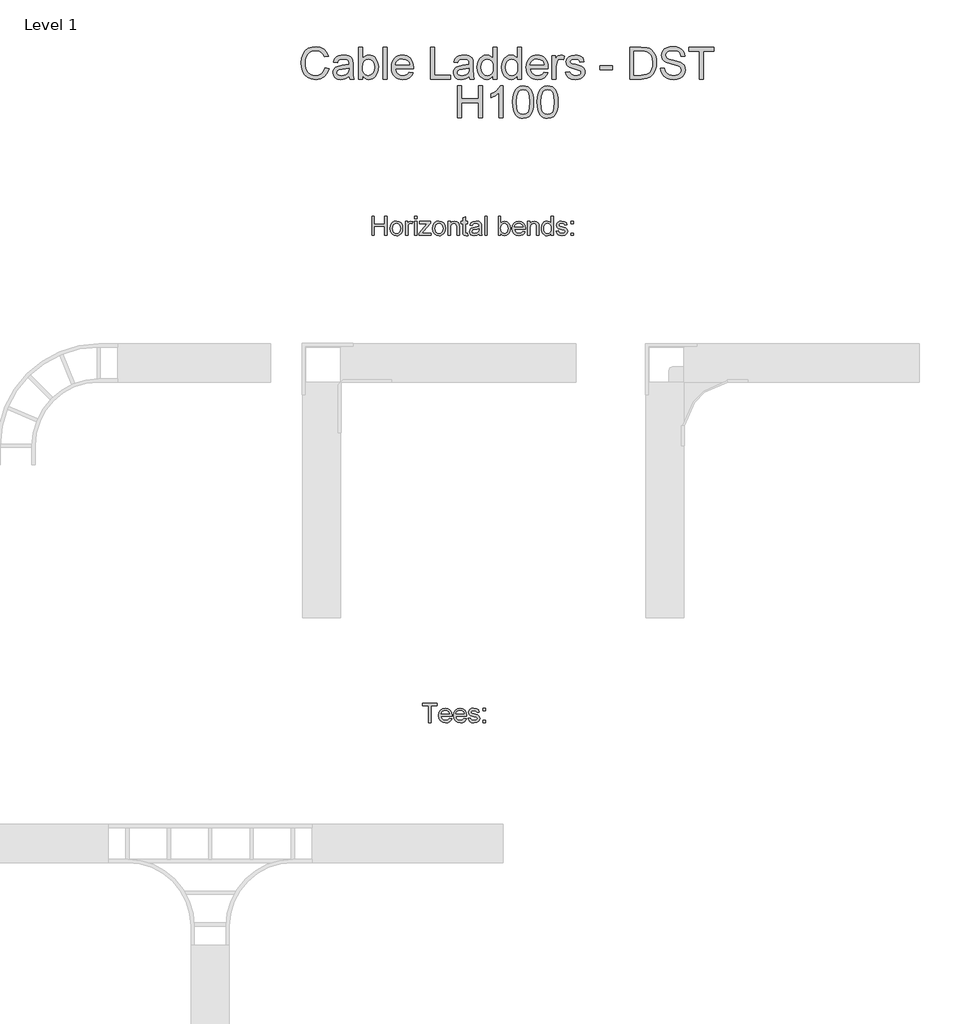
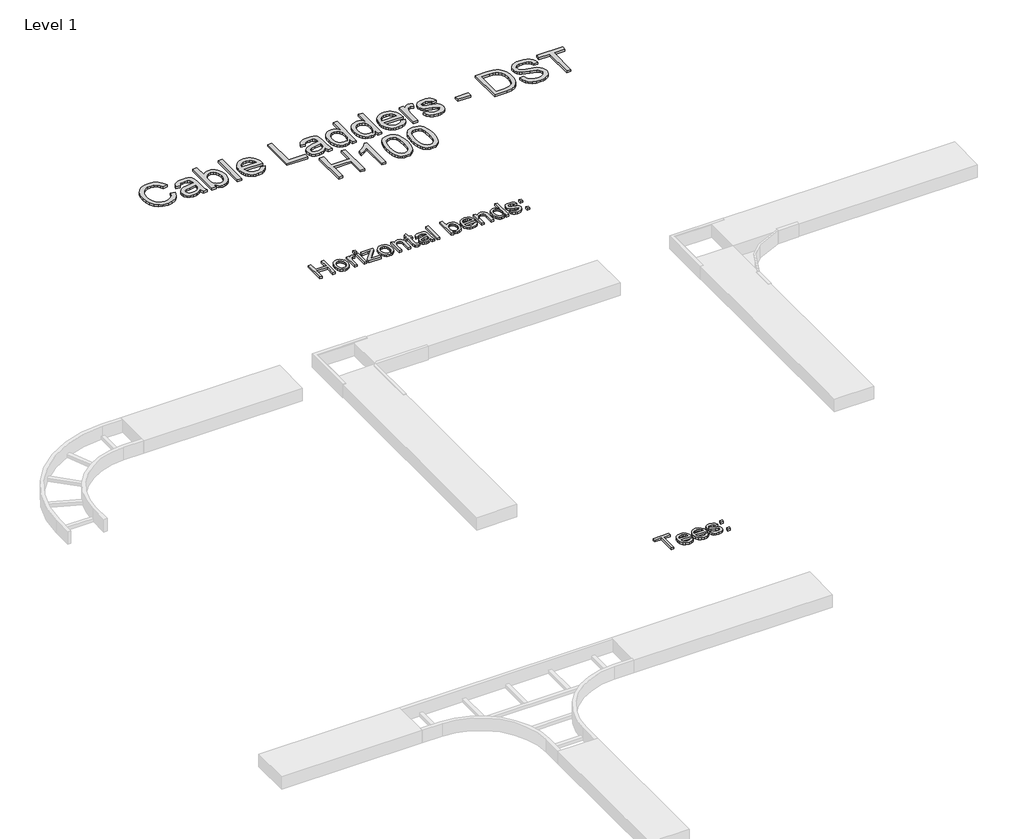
# One storey, part 89 of 106: 3 proxies.
"""IFC4 building model written with IfcOpenShell, lengths in millimetres."""

from ifc_helpers import new_model, si_unit, origin, origin_with_axes, place, context, project, spatial, polyline, outline, extrude, element, save

model = new_model("IFC4")

# Units and contexts
model_context = context("Model", 3, world=origin())
ifc_project = project(units=[si_unit("LENGTHUNIT", "METRE", prefix="MILLI")], contexts=[model_context])

# Site, building, storey
site = spatial("IfcSite", under=ifc_project)
building = spatial("IfcBuilding", under=site)
storey = spatial("IfcBuildingStorey", under=building, Name="Level 1", Elevation=0.0)

# Proxies
placement = place(None, origin())
element("IfcBuildingElementProxy", 1, Name="150mm Arial 2", ObjectType="150mm Arial 2", at=placement, inside=storey, context=model_context, shape_type="SweptSolid", body=[
    extrude(outline(polyline([(107265.8833156, 70274.2713912), (107265.8833156, 70424.9558564), (107284.7188737, 70424.9558564), (107284.7188737, 70363.7402924), (107364.7699959, 70363.7402924), (107364.7699959, 70424.9558564), (107383.605554, 70424.9558564), (107383.605554, 70274.2713912), (107364.7699959, 70274.2713912), (107364.7699959, 70344.9047343), (107284.7188737, 70344.9047343), (107284.7188737, 70274.2713912), (107265.8833156, 70274.2713912)])), origin_with_axes(), (0.0, 0.0, 1.0), 15.0),
    extrude(outline(polyline([(107409.5044465, 70329.6008433), (107413.5787396, 70356.281485), (107425.8016189, 70375.0342697), (107440.9031748, 70384.2221225), (107458.9845748, 70387.2847401), (107478.7720277, 70383.5553364), (107494.5771579, 70372.3671252), (107504.9376346, 70354.6030234), (107508.3911268, 70331.1459476), (107506.8644165, 70312.1172514), (107502.2842857, 70297.6318979), (107494.7840915, 70286.7839775), (107484.4971912, 70278.667581), (107472.2789104, 70273.6046051), (107458.9845748, 70271.9169464), (107438.9579987, 70275.6325546), (107423.1712626, 70286.779379), (107412.9211505, 70304.9159614), (107409.5044465, 70329.6008433)]), holes=[polyline([(107428.3400046, 70329.6376315), (107430.5197055, 70312.5908995), (107437.0588079, 70300.4461951), (107446.8996513, 70293.1759272), (107458.9845748, 70290.7525046), (107471.0143161, 70293.1897228), (107480.8367654, 70300.5013774), (107487.3758678, 70312.8070302), (107489.5555686, 70330.2262427), (107487.3620722, 70346.7763339), (107480.7815831, 70358.7554914), (107470.9453382, 70366.0257593), (107458.9845748, 70368.449182), (107446.8996513, 70366.0349564), (107437.0588079, 70358.7922796), (107430.5197055, 70346.6751664), (107428.3400046, 70329.6376315)])]), origin_with_axes(), (0.0, 0.0, 1.0), 15.0),
    extrude(outline(polyline([(107529.5811297, 70274.2713912), (107529.5811297, 70384.9302953), (107546.0622431, 70384.9302953), (107546.0622431, 70368.5595466), (107557.7608906, 70383.6427084), (107569.5331144, 70387.2847401), (107588.4422489, 70381.4722046), (107582.1514668, 70364.586421), (107568.907715, 70368.449182), (107558.2575312, 70364.7335738), (107551.4701084, 70354.4328779), (107548.4166879, 70332.4335346), (107548.4166879, 70274.2713912), (107529.5811297, 70274.2713912)])), origin_with_axes(), (0.0, 0.0, 1.0), 15.0),
    extrude(outline(polyline([(107600.2144728, 70406.1202983), (107600.2144728, 70424.9558564), (107619.0500309, 70424.9558564), (107619.0500309, 70406.1202983), (107600.2144728, 70406.1202983)])), origin_with_axes(), (0.0, 0.0, 1.0), 15.0),
    extrude(outline(polyline([(107600.2144728, 70274.2713912), (107600.2144728, 70384.9302953), (107619.0500309, 70384.9302953), (107619.0500309, 70274.2713912), (107600.2144728, 70274.2713912)])), origin_with_axes(), (0.0, 0.0, 1.0), 15.0),
    extrude(outline(polyline([(107635.5311443, 70274.2713912), (107635.5311443, 70292.0033034), (107700.5358929, 70366.0947372), (107681.2956645, 70366.0947372), (107640.2400339, 70366.0947372), (107640.2400339, 70384.9302953), (107727.3544903, 70384.9302953), (107727.3544903, 70368.9274285), (107669.7073817, 70303.186916), (107660.8782138, 70293.1069493), (107682.6568279, 70293.1069493), (107729.7089351, 70293.1069493), (107729.7089351, 70274.2713912), (107635.5311443, 70274.2713912)])), origin_with_axes(), (0.0, 0.0, 1.0), 15.0),
    extrude(outline(polyline([(107743.8356037, 70329.6008433), (107747.9098968, 70356.281485), (107760.1327761, 70375.0342697), (107775.234332, 70384.2221225), (107793.3157321, 70387.2847401), (107813.1031849, 70383.5553364), (107828.9083151, 70372.3671252), (107839.2687918, 70354.6030234), (107842.722284, 70331.1459476), (107841.1955737, 70312.1172514), (107836.6154429, 70297.6318979), (107829.1152487, 70286.7839775), (107818.8283484, 70278.667581), (107806.6100677, 70273.6046051), (107793.3157321, 70271.9169464), (107773.2891559, 70275.6325546), (107757.5024198, 70286.779379), (107747.2523077, 70304.9159614), (107743.8356037, 70329.6008433)]), holes=[polyline([(107762.6711619, 70329.6376315), (107764.8508627, 70312.5908995), (107771.3899651, 70300.4461951), (107781.2308085, 70293.1759272), (107793.3157321, 70290.7525046), (107805.3454733, 70293.1897228), (107815.1679226, 70300.5013774), (107821.707025, 70312.8070302), (107823.8867259, 70330.2262427), (107821.6932295, 70346.7763339), (107815.1127403, 70358.7554914), (107805.2764954, 70366.0257593), (107793.3157321, 70368.449182), (107781.2308085, 70366.0349564), (107771.3899651, 70358.7922796), (107764.8508627, 70346.6751664), (107762.6711619, 70329.6376315)])]), origin_with_axes(), (0.0, 0.0, 1.0), 15.0),
    extrude(outline(polyline([(107863.9122869, 70274.2713912), (107863.9122869, 70384.9302953), (107882.7478451, 70384.9302953), (107882.7478451, 70369.4792515), (107897.1504252, 70382.833368), (107916.8137178, 70387.2847401), (107934.6008123, 70383.6978907), (107946.7409182, 70374.2801116), (107952.3879068, 70360.4293545), (107953.3811882, 70342.2191957), (107953.3811882, 70274.2713912), (107934.54563, 70274.2713912), (107934.54563, 70339.6808099), (107932.3751262, 70356.3458643), (107924.7047866, 70365.1566381), (107911.7737345, 70368.449182), (107900.7418732, 70366.6005749), (107891.3378897, 70361.0547538), (107884.8953562, 70350.3401907), (107882.7478451, 70332.9853576), (107882.7478451, 70274.2713912), (107863.9122869, 70274.2713912)])), origin_with_axes(), (0.0, 0.0, 1.0), 15.0),
    extrude(outline(polyline([(108019.3056417, 70289.9799524), (108021.6600865, 70273.7195682), (108007.5702061, 70271.9169464), (107991.7880685, 70275.0439434), (107983.9153938, 70283.2477119), (107981.6345254, 70304.6216558), (107981.6345254, 70366.0947372), (107967.5078568, 70366.0947372), (107967.5078568, 70384.9302953), (107981.6345254, 70384.9302953), (107981.6345254, 70411.8224692), (108000.4700835, 70422.8957172), (108000.4700835, 70384.9302953), (108019.3056417, 70384.9302953), (108019.3056417, 70366.0947372), (108000.4700835, 70366.0947372), (108000.4700835, 70305.1734788), (108001.4633649, 70295.4613941), (108004.6823324, 70292.0216975), (108011.1018732, 70290.7525046), (108019.3056417, 70289.9799524)])), origin_with_axes(), (0.0, 0.0, 1.0), 15.0),
    extrude(outline(polyline([(108108.7745429, 70288.3980598), (108090.5092019, 70275.6325546), (108070.3308744, 70271.9169464), (108054.5901236, 70274.1518295), (108042.9788481, 70280.8564789), (108035.8189448, 70291.0376131), (108033.4323103, 70303.7019508), (108037.0375539, 70318.6011716), (108046.5105152, 70329.4169023), (108059.6990848, 70335.5973198), (108075.9962572, 70338.4300111), (108108.6641783, 70344.9047343), (108108.7745429, 70349.098589), (108107.4777589, 70357.5046926), (108103.5874068, 70363.0045284), (108094.8869976, 70367.0880186), (108082.7652859, 70368.449182), (108063.7089985, 70364.8255443), (108054.6223132, 70351.9680686), (108035.7867551, 70354.3225133), (108043.9353413, 70372.7166131), (108060.3428783, 70383.4955556), (108085.193307, 70387.2847401), (108108.0203848, 70383.9370139), (108120.9146488, 70375.5309104), (108126.6903961, 70362.747011), (108127.6101011, 70346.2658976), (108127.6101011, 70322.8318145), (108128.5665943, 70290.1087111), (108132.3189906, 70274.2713912), (108113.4834325, 70274.2713912), (108108.7745429, 70288.3980598)]), holes=[polyline([(108108.7745429, 70326.0691761), (108078.3874901, 70320.2934288), (108062.1822882, 70317.2400082), (108054.8430424, 70312.2736013), (108052.2678685, 70305.026326), (108057.8780689, 70294.8359947), (108074.3407882, 70290.7525046), (108093.3970755, 70295.259059), (108105.6843342, 70306.1667602), (108108.6641783, 70320.7348872), (108108.7745429, 70326.0691761)])]), origin_with_axes(), (0.0, 0.0, 1.0), 15.0),
    extrude(outline(polyline([(108153.5089935, 70274.2713912), (108153.5089935, 70424.9558564), (108172.3445517, 70424.9558564), (108172.3445517, 70274.2713912), (108153.5089935, 70274.2713912)])), origin_with_axes(), (0.0, 0.0, 1.0), 15.0),
    extrude(outline(polyline([(108278.2945663, 70274.2713912), (108259.4590082, 70274.2713912), (108259.4590082, 70424.9558564), (108278.2945663, 70424.9558564), (108278.2945663, 70369.0745813), (108291.4831358, 70382.7322004), (108307.8722787, 70387.2847401), (108326.7446251, 70383.1828559), (108341.3863285, 70371.6497553), (108350.3810433, 70353.715508), (108353.6367989, 70331.2563122), (108350.2660801, 70306.1115779), (108340.1539238, 70287.4047784), (108325.3144838, 70275.7889044), (108307.7619141, 70271.9169464), (108291.0140863, 70276.9109445), (108278.2945663, 70291.8929388), (108278.2945663, 70274.2713912)]), holes=[polyline([(108278.2945663, 70330.3733955), (108279.5821533, 70314.6648343), (108283.4449142, 70304.0330446), (108293.3133488, 70294.0726396), (108306.1432333, 70290.7525046), (108317.0141463, 70293.1989198), (108326.3031667, 70300.5381656), (108332.6767222, 70312.7242567), (108334.8012408, 70329.7112079), (108332.7640942, 70346.9464793), (108326.6526546, 70358.9946147), (108317.6533413, 70366.0855401), (108306.9525737, 70368.449182), (108296.0816608, 70366.0027667), (108286.7926404, 70358.6635209), (108280.4190848, 70346.698159), (108278.2945663, 70330.3733955)])]), origin_with_axes(), (0.0, 0.0, 1.0), 15.0),
    extrude(outline(polyline([(108452.30275, 70307.233618), (108470.7704262, 70304.8791732), (108464.1163606, 70290.9640367), (108453.4983665, 70280.5621733), (108439.1555672, 70274.0782531), (108421.327086, 70271.9169464), (108399.2265752, 70275.6463501), (108382.2212299, 70286.8345613), (108371.3779081, 70304.755013), (108367.7634675, 70328.6811383), (108371.4146963, 70353.4120054), (108382.3683827, 70371.9072727), (108399.1438017, 70383.4403733), (108420.2602282, 70387.2847401), (108440.7190657, 70383.4495703), (108457.0668219, 70371.9440609), (108467.7859835, 70353.4855818), (108471.3590374, 70328.7915029), (108471.2486728, 70323.7147313), (108386.5990257, 70323.7147313), (108389.8593799, 70309.6156539), (108397.4331504, 70299.2505787), (108408.3638442, 70292.8770231), (108421.694968, 70290.7525046), (108440.1626442, 70294.6888419), (108452.30275, 70307.233618)]), holes=[polyline([(108386.5990257, 70342.5502895), (108452.5234792, 70342.5502895), (108449.9758964, 70352.5014975), (108444.9818983, 70359.6200141), (108434.0006208, 70366.24189), (108420.1866518, 70368.449182), (108407.4901245, 70366.6879469), (108396.991692, 70361.4042417), (108389.693833, 70353.1682836), (108386.5990257, 70342.5502895)])]), origin_with_axes(), (0.0, 0.0, 1.0), 15.0),
    extrude(outline(polyline([(108490.1945955, 70274.2713912), (108490.1945955, 70384.9302953), (108509.0301537, 70384.9302953), (108509.0301537, 70369.4792515), (108523.4327338, 70382.833368), (108543.0960264, 70387.2847401), (108560.8831209, 70383.6978907), (108573.0232267, 70374.2801116), (108578.6702154, 70360.4293545), (108579.6634968, 70342.2191957), (108579.6634968, 70274.2713912), (108560.8279386, 70274.2713912), (108560.8279386, 70339.6808099), (108558.6574348, 70356.3458643), (108550.9870952, 70365.1566381), (108538.0560431, 70368.449182), (108527.0241818, 70366.6005749), (108517.6201983, 70361.0547538), (108511.1776648, 70350.3401907), (108509.0301537, 70332.9853576), (108509.0301537, 70274.2713912), (108490.1945955, 70274.2713912)])), origin_with_axes(), (0.0, 0.0, 1.0), 15.0),
    extrude(outline(polyline([(108673.8412875, 70274.2713912), (108673.8412875, 70292.0400916), (108661.3792849, 70276.9477327), (108644.1532105, 70271.9169464), (108631.9763165, 70273.7379623), (108620.829492, 70279.2010099), (108611.3933188, 70287.9244117), (108604.3483786, 70299.5264902), (108599.9613858, 70313.5381956), (108598.4990549, 70329.4904787), (108603.8885261, 70359.4728613), (108610.6207666, 70371.3646468), (108620.0385457, 70380.1110412), (108631.429092, 70385.4913154), (108644.0796341, 70387.2847401), (108661.4436643, 70382.1527863), (108673.8412875, 70368.8170639), (108673.8412875, 70424.9558564), (108692.6768457, 70424.9558564), (108692.6768457, 70274.2713912), (108673.8412875, 70274.2713912)]), holes=[polyline([(108617.3346131, 70329.5640551), (108619.4591316, 70312.5265202), (108625.8326871, 70300.4094069), (108635.0941164, 70293.1667302), (108645.8822559, 70290.7525046), (108656.6657969, 70293.0563656), (108665.6927013, 70299.9679485), (108671.804141, 70311.6160122), (108673.8412875, 70328.1293153), (108671.7673528, 70346.1831242), (108665.5455485, 70358.7003091), (108656.2887178, 70366.0119637), (108645.1097037, 70368.449182), (108634.2111996, 70366.1085328), (108625.2808642, 70359.0865852), (108619.3211758, 70347.0246543), (108617.3346131, 70329.5640551)])]), origin_with_axes(), (0.0, 0.0, 1.0), 15.0),
    extrude(outline(polyline([(108713.8668486, 70307.233618), (108732.7024067, 70309.5880627), (108735.6730539, 70301.531447), (108741.42121, 70295.6085469), (108761.3972024, 70290.7525046), (108780.6006425, 70295.2038767), (108786.8546364, 70305.6517254), (108785.2819409, 70310.4525854), (108780.5638543, 70314.1130113), (108761.1764732, 70319.4840884), (108732.8127713, 70328.6995324), (108720.4335422, 70339.4600807), (108716.2212934, 70354.6536071), (108719.6058077, 70368.6883052), (108728.8396458, 70379.4120654), (108740.8142047, 70384.9854776), (108757.0194066, 70387.2847401), (108779.9384549, 70383.5875261), (108794.5065819, 70373.5811358), (108800.9813051, 70356.6769581), (108782.1457469, 70354.3225133), (108775.0640185, 70364.7151797), (108758.4909346, 70368.449182), (108740.4647168, 70364.8807266), (108735.0568515, 70356.5665935), (108737.3009317, 70351.0851518), (108744.3274778, 70346.9280852), (108760.5510738, 70342.9181715), (108788.1974057, 70334.0522154), (108801.0364873, 70324.0090369), (108805.6901946, 70307.6382881), (108800.227147, 70289.6120704), (108784.4634035, 70276.5338655), (108761.139685, 70271.9169464), (108742.147777, 70274.1426325), (108728.2878228, 70280.8196907), (108719.0355906, 70291.8745447), (108713.8668486, 70307.233618)])), origin_with_axes(), (0.0, 0.0, 1.0), 15.0),
    extrude(outline(polyline([(108831.589087, 70366.0947372), (108831.589087, 70384.9302953), (108850.4246452, 70384.9302953), (108850.4246452, 70366.0947372), (108831.589087, 70366.0947372)])), origin_with_axes(), (0.0, 0.0, 1.0), 15.0),
    extrude(outline(polyline([(108831.589087, 70274.2713912), (108831.589087, 70293.1069493), (108850.4246452, 70293.1069493), (108850.4246452, 70274.2713912), (108831.589087, 70274.2713912)])), origin_with_axes(), (0.0, 0.0, 1.0), 15.0),
])
element("IfcBuildingElementProxy", 2, Name="150mm Arial 2", ObjectType="150mm Arial 2", at=placement, inside=storey, context=model_context, shape_type="SweptSolid", body=[
    extrude(outline(polyline([(107711.5611219, 66447.8476348), (107711.5611219, 66579.6965419), (107662.1177817, 66579.6965419), (107662.1177817, 66598.5321), (107779.8400202, 66598.5321), (107779.8400202, 66579.6965419), (107730.39668, 66579.6965419), (107730.39668, 66447.8476348), (107711.5611219, 66447.8476348)])), origin_with_axes(), (0.0, 0.0, 1.0), 15.0),
    extrude(outline(polyline([(107876.1515265, 66480.8098615), (107894.6192027, 66478.4554168), (107887.9651371, 66464.5402803), (107877.347143, 66454.1384169), (107863.0043437, 66447.6544967), (107845.1758625, 66445.49319), (107823.0753517, 66449.2225937), (107806.0700064, 66460.4108049), (107795.2266846, 66478.3312566), (107791.612244, 66502.2573819), (107795.2634728, 66526.988249), (107806.2171592, 66545.4835163), (107822.9925782, 66557.0166168), (107844.1090047, 66560.8609837), (107864.5678422, 66557.0258139), (107880.9155984, 66545.5203045), (107891.63476, 66527.0618254), (107895.2078139, 66502.3677465), (107895.0974493, 66497.2909749), (107810.4478022, 66497.2909749), (107813.7081564, 66483.1918975), (107821.2819269, 66472.8268223), (107832.2126207, 66466.4532667), (107845.5437445, 66464.3287482), (107864.0114207, 66468.2650855), (107876.1515265, 66480.8098615)]), holes=[polyline([(107810.4478022, 66516.1265331), (107876.3722557, 66516.1265331), (107873.8246729, 66526.0777411), (107868.8306748, 66533.1962577), (107857.8493973, 66539.8181336), (107844.0354283, 66542.0254255), (107831.338901, 66540.2641905), (107820.8404686, 66534.9804853), (107813.5426095, 66526.7445272), (107810.4478022, 66516.1265331)])]), origin_with_axes(), (0.0, 0.0, 1.0), 15.0),
    extrude(outline(polyline([(107991.5193202, 66480.8098615), (108009.9869964, 66478.4554168), (108003.3329308, 66464.5402803), (107992.7149367, 66454.1384169), (107978.3721374, 66447.6544967), (107960.5436562, 66445.49319), (107938.4431454, 66449.2225937), (107921.4378001, 66460.4108049), (107910.5944783, 66478.3312566), (107906.9800377, 66502.2573819), (107910.6312665, 66526.988249), (107921.5849529, 66545.4835163), (107938.3603719, 66557.0166168), (107959.4767984, 66560.8609837), (107979.9356359, 66557.0258139), (107996.2833921, 66545.5203045), (108007.0025537, 66527.0618254), (108010.5756076, 66502.3677465), (108010.465243, 66497.2909749), (107925.8155959, 66497.2909749), (107929.0759501, 66483.1918975), (107936.6497206, 66472.8268223), (107947.5804144, 66466.4532667), (107960.9115382, 66464.3287482), (107979.3792144, 66468.2650855), (107991.5193202, 66480.8098615)]), holes=[polyline([(107925.8155959, 66516.1265331), (107991.7400494, 66516.1265331), (107989.1924666, 66526.0777411), (107984.1984685, 66533.1962577), (107973.217191, 66539.8181336), (107959.403222, 66542.0254255), (107946.7066947, 66540.2641905), (107936.2082622, 66534.9804853), (107928.9104032, 66526.7445272), (107925.8155959, 66516.1265331)])]), origin_with_axes(), (0.0, 0.0, 1.0), 15.0),
    extrude(outline(polyline([(108022.3478314, 66480.8098615), (108041.1833896, 66483.1643063), (108044.1540367, 66475.1076906), (108049.9021929, 66469.1847905), (108069.8781852, 66464.3287482), (108089.0816253, 66468.7801203), (108095.3356193, 66479.227969), (108093.7629237, 66484.028829), (108089.0448371, 66487.6892549), (108069.657456, 66493.060332), (108041.2937542, 66502.275776), (108028.914525, 66513.0363243), (108024.7022762, 66528.2298507), (108028.0867905, 66542.2645488), (108037.3206286, 66552.988309), (108049.2951876, 66558.5617212), (108065.5003894, 66560.8609837), (108088.4194377, 66557.1637696), (108102.9875648, 66547.1573794), (108109.4622879, 66530.2532017), (108090.6267297, 66527.8987569), (108083.5450013, 66538.2914233), (108066.9719174, 66542.0254255), (108048.9456997, 66538.4569702), (108043.5378343, 66530.1428371), (108045.7819145, 66524.6613954), (108052.8084606, 66520.5043288), (108069.0320566, 66516.4944151), (108096.6783885, 66507.628459), (108109.5174702, 66497.5852805), (108114.1711774, 66481.2145317), (108108.7081298, 66463.188314), (108092.9443863, 66450.1101091), (108069.6206678, 66445.49319), (108050.6287598, 66447.7188761), (108036.7688056, 66454.3959343), (108027.5165734, 66465.4507882), (108022.3478314, 66480.8098615)])), origin_with_axes(), (0.0, 0.0, 1.0), 15.0),
    extrude(outline(polyline([(108140.0700699, 66539.6709808), (108140.0700699, 66558.5065389), (108158.905628, 66558.5065389), (108158.905628, 66539.6709808), (108140.0700699, 66539.6709808)])), origin_with_axes(), (0.0, 0.0, 1.0), 15.0),
    extrude(outline(polyline([(108140.0700699, 66447.8476348), (108140.0700699, 66466.6831929), (108158.905628, 66466.6831929), (108158.905628, 66447.8476348), (108140.0700699, 66447.8476348)])), origin_with_axes(), (0.0, 0.0, 1.0), 15.0),
])
element("IfcBuildingElementProxy", 3, Name="250mm Arial 3", ObjectType="250mm Arial 3", at=placement, inside=storey, context=model_context, shape_type="SweptSolid", body=[
    extrude(outline(polyline([(106897.0990556, 71592.4106539), (106928.4916525, 71584.31725), (106914.0062989, 71547.7359841), (106891.2742573, 71521.01089), (106861.414502, 71504.6631338), (106825.5460075, 71499.2138818), (106789.1333542, 71503.3372258), (106760.2162965, 71515.7072579), (106738.0514063, 71535.8947824), (106721.8952554, 71563.4706036), (106712.0314194, 71595.8902044), (106708.743474, 71630.6090677), (106712.460615, 71667.2286547), (106723.612038, 71698.8511778), (106741.6152631, 71724.472626), (106765.8878106, 71743.0889877), (106794.6745767, 71754.4243517), (106826.2204578, 71758.2028064), (106860.640417, 71753.3130415), (106889.0976222, 71738.643747), (106910.7030252, 71715.0992993), (106924.5675779, 71683.584075), (106893.1749809, 71676.1038078), (106882.2918053, 71698.9967978), (106867.4232413, 71714.7007605), (106848.385348, 71723.7828472), (106824.9941845, 71726.8102095), (106798.0314999, 71723.4532863), (106775.8819381, 71713.3825166), (106759.0743295, 71697.6555613), (106748.1375043, 71677.3300811), (106742.1364293, 71654.3527848), (106740.1360709, 71630.6703814), (106742.5043113, 71601.6690174), (106749.6090323, 71576.5917281), (106761.7184813, 71556.3965394), (106779.1009056, 71542.0414774), (106799.9398878, 71533.4652284), (106822.4190105, 71530.6064787), (106848.6229385, 71534.4998965), (106870.4582677, 71546.1801498), (106886.9439796, 71565.5246114), (106897.0990556, 71592.4106539)])), origin_with_axes(), (0.0, 0.0, 1.0), 15.0),
    extrude(outline(polyline([(107085.4546371, 71526.6824041), (107070.4557816, 71513.8218627), (107055.012402, 71505.406562), (107038.7719447, 71500.7620518), (107021.3818563, 71499.2138818), (106995.1472715, 71502.938687), (106975.7951457, 71514.1131026), (106963.8619735, 71531.0816596), (106959.8842494, 71552.1888891), (106961.3864342, 71565.2027147), (106965.8929887, 71577.0209238), (106981.6812576, 71595.0471415), (107003.6622068, 71605.3478374), (107030.8241608, 71610.0689897), (107085.2706961, 71620.8601949), (107085.4546371, 71627.8499528), (107083.2933304, 71641.8601254), (107076.8094102, 71651.0265185), (107062.3087282, 71657.8323354), (107042.1058753, 71660.100941), (107023.4052072, 71658.591092), (107010.3453964, 71654.0615449), (107001.4395864, 71645.6845653), (106995.2009209, 71632.6324187), (106963.808324, 71636.5564933), (106969.2575761, 71653.7243198), (106977.389301, 71667.2133262), (106988.9622554, 71677.5293505), (107004.735196, 71685.1782303), (107024.0260081, 71689.914711), (107046.1525773, 71691.4935379), (107067.3747699, 71690.098652), (107084.1977069, 71685.9139943), (107096.8819716, 71679.6216794), (107105.6881468, 71671.9038217), (107115.3143924, 71650.5973228), (107116.847234, 71623.1288005), (107116.847234, 71584.0719953), (107118.4413893, 71529.5334895), (107124.6953832, 71503.1379564), (107093.3027863, 71503.1379564), (107085.4546371, 71526.6824041)]), holes=[polyline([(107085.4546371, 71589.4675979), (107034.8095491, 71579.8413524), (107007.8008793, 71574.7523181), (106995.5688029, 71566.4749732), (106991.2768463, 71554.3961811), (106993.6144298, 71545.0611754), (107000.6271804, 71537.4122956), (107012.1618138, 71532.3079329), (107028.0650458, 71530.6064787), (107044.926304, 71532.4842097), (107059.8255248, 71538.1174028), (107071.9043169, 71546.4177403), (107080.3042892, 71556.2969047), (107084.0290944, 71566.4749732), (107085.2706961, 71580.5771164), (107085.4546371, 71589.4675979)])]), origin_with_axes(), (0.0, 0.0, 1.0), 15.0),
    extrude(outline(polyline([(107191.4046517, 71503.1379564), (107160.0120548, 71503.1379564), (107160.0120548, 71754.2787318), (107191.4046517, 71754.2787318), (107191.4046517, 71661.1432733), (107201.7283402, 71674.4215141), (107213.3856009, 71683.9059718), (107226.3764339, 71689.5966464), (107240.7008391, 71691.4935379), (107256.8723184, 71689.7844195), (107272.1547496, 71684.6570642), (107285.674413, 71676.4333687), (107296.5575887, 71665.4352299), (107311.54878, 71635.5448178), (107316.9750394, 71598.1128248), (107311.3571748, 71556.2049342), (107304.334844, 71539.2746982), (107294.5035808, 71525.0269351), (107282.7026162, 71513.7337243), (107269.7711809, 71505.6671451), (107255.7092748, 71500.8271976), (107240.5168981, 71499.2138818), (107225.7211441, 71501.2947143), (107212.6038517, 71507.5372119), (107201.1650209, 71517.9413746), (107191.4046517, 71532.5072023), (107191.4046517, 71503.1379564)]), holes=[polyline([(107191.4046517, 71596.6412968), (107193.55063, 71570.4603615), (107199.9885649, 71552.7407121), (107216.4359558, 71536.140037), (107237.8190968, 71530.6064787), (107255.937285, 71534.6838375), (107271.4189856, 71546.9159138), (107282.0415783, 71567.2260656), (107285.5824425, 71595.5376509), (107282.1871982, 71624.2631033), (107272.0014655, 71644.3433289), (107257.00261, 71656.161538), (107239.1679974, 71660.100941), (107221.0498091, 71656.0235822), (107205.5681085, 71643.7915059), (107194.9455159, 71623.8492361), (107191.4046517, 71596.6412968)])]), origin_with_axes(), (0.0, 0.0, 1.0), 15.0),
    extrude(outline(polyline([(107352.2917109, 71503.1379564), (107352.2917109, 71754.2787318), (107383.6843078, 71754.2787318), (107383.6843078, 71503.1379564), (107352.2917109, 71503.1379564)])), origin_with_axes(), (0.0, 0.0, 1.0), 15.0),
    extrude(outline(polyline([(107559.8997835, 71558.075001), (107590.6792438, 71554.1509264), (107579.5891345, 71530.9590323), (107561.8924777, 71513.6225933), (107537.9878122, 71502.8160596), (107508.2736769, 71499.2138818), (107488.7950917, 71500.7678), (107471.4394921, 71505.4295547), (107456.2068782, 71513.1991458), (107443.0972501, 71524.0765733), (107432.5551316, 71537.759101), (107425.0250471, 71553.9439928), (107420.5069963, 71572.6312485), (107419.0009794, 71593.8208682), (107420.5223247, 71615.7290074), (107425.0863607, 71635.0389801), (107432.6930874, 71651.7507861), (107443.3425047, 71665.8644256), (107456.417644, 71677.0771622), (107471.3015364, 71685.0862598), (107487.9941819, 71689.8917184), (107506.4955806, 71691.4935379), (107524.4010871, 71689.8955505), (107540.593643, 71685.1015883), (107555.0732484, 71677.1116512), (107567.8399033, 71665.9257393), (107578.2613104, 71651.8427566), (107585.7051727, 71635.1616074), (107590.17149, 71615.8822916), (107591.6602625, 71594.0048092), (107591.4763215, 71585.5435233), (107450.3935763, 71585.5435233), (107455.8274999, 71562.0450609), (107468.4504509, 71544.7699355), (107486.6682739, 71534.1473429), (107508.8868135, 71530.6064787), (107525.5947875, 71532.2466193), (107539.6662738, 71537.1670409), (107551.1012725, 71545.6743121), (107559.8997835, 71558.075001)]), holes=[polyline([(107450.3935763, 71616.9361202), (107560.2676655, 71616.9361202), (107556.0216942, 71633.5214669), (107547.698364, 71645.3856612), (107529.3962348, 71656.4221211), (107506.3729532, 71660.100941), (107485.2120743, 71657.1655493), (107467.7146869, 71648.359374), (107455.5515884, 71634.632777), (107450.3935763, 71616.9361202)])]), origin_with_axes(), (0.0, 0.0, 1.0), 15.0),
    extrude(outline(polyline([(107725.0787994, 71503.1379564), (107725.0787994, 71754.2787318), (107756.4713963, 71754.2787318), (107756.4713963, 71534.5305533), (107882.041784, 71534.5305533), (107882.041784, 71503.1379564), (107725.0787994, 71503.1379564)])), origin_with_axes(), (0.0, 0.0, 1.0), 15.0),
    extrude(outline(polyline([(108031.1566194, 71526.6824041), (108016.1577638, 71513.8218627), (108000.7143843, 71505.406562), (107984.473927, 71500.7620518), (107967.0838385, 71499.2138818), (107940.8492537, 71502.938687), (107921.497128, 71514.1131026), (107909.5639557, 71531.0816596), (107905.5862317, 71552.1888891), (107907.0884165, 71565.2027147), (107911.5949709, 71577.0209238), (107927.3832399, 71595.0471415), (107949.3641891, 71605.3478374), (107976.5261431, 71610.0689897), (108030.9726784, 71620.8601949), (108031.1566194, 71627.8499528), (108028.9953126, 71641.8601254), (108022.5113925, 71651.0265185), (108008.0107105, 71657.8323354), (107987.8078576, 71660.100941), (107969.1071895, 71658.591092), (107956.0473787, 71654.0615449), (107947.1415687, 71645.6845653), (107940.9029032, 71632.6324187), (107909.5103063, 71636.5564933), (107914.9595583, 71653.7243198), (107923.0912833, 71667.2133262), (107934.6642377, 71677.5293505), (107950.4371782, 71685.1782303), (107969.7279904, 71689.914711), (107991.8545595, 71691.4935379), (108013.0767521, 71690.098652), (108029.8996892, 71685.9139943), (108042.5839538, 71679.6216794), (108051.3901291, 71671.9038217), (108061.0163746, 71650.5973228), (108062.5492163, 71623.1288005), (108062.5492163, 71584.0719953), (108064.1433716, 71529.5334895), (108070.3973655, 71503.1379564), (108039.0047686, 71503.1379564), (108031.1566194, 71526.6824041)]), holes=[polyline([(108031.1566194, 71589.4675979), (107980.5115314, 71579.8413524), (107953.5028615, 71574.7523181), (107941.2707852, 71566.4749732), (107936.9788286, 71554.3961811), (107939.3164121, 71545.0611754), (107946.3291626, 71537.4122956), (107957.863796, 71532.3079329), (107973.7670281, 71530.6064787), (107990.6282862, 71532.4842097), (108005.527507, 71538.1174028), (108017.6062992, 71546.4177403), (108026.0062714, 71556.2969047), (108029.7310766, 71566.4749732), (108030.9726784, 71580.5771164), (108031.1566194, 71589.4675979)])]), origin_with_axes(), (0.0, 0.0, 1.0), 15.0),
    extrude(outline(polyline([(108219.5122009, 71503.1379564), (108219.5122009, 71532.752457), (108210.1197137, 71518.0793303), (108198.7421966, 71507.5985256), (108185.3796495, 71501.3100427), (108170.0320725, 71499.2138818), (108149.7372491, 71502.2489082), (108131.1592084, 71511.3539876), (108115.4322531, 71525.8929906), (108103.6906861, 71545.229788), (108096.3790314, 71568.5826305), (108093.9418132, 71595.1697689), (108096.1874262, 71621.4273463), (108102.9242652, 71645.1404065), (108114.1446661, 71664.960049), (108129.8409646, 71679.5373731), (108148.8252084, 71688.5044967), (108169.9094452, 71691.4935379), (108185.2685185, 71689.3552238), (108198.8494955, 71682.9402815), (108210.3611363, 71673.1071024), (108219.5122009, 71660.7140777), (108219.5122009, 71754.2787318), (108250.9047978, 71754.2787318), (108250.9047978, 71503.1379564), (108219.5122009, 71503.1379564)]), holes=[polyline([(108125.3344101, 71595.2923962), (108128.8752743, 71566.8965047), (108139.4978669, 71546.701316), (108154.9335823, 71534.630188), (108172.9138148, 71530.6064787), (108190.8863831, 71534.446247), (108205.9312239, 71545.965552), (108216.1169566, 71565.3789915), (108219.5122009, 71592.9011632), (108216.055643, 71622.9908447), (108205.6859692, 71643.8528196), (108190.2579181, 71656.0389106), (108171.6262278, 71660.100941), (108153.4620543, 71656.199859), (108138.5781619, 71644.496613), (108128.6453481, 71624.3933948), (108125.3344101, 71595.2923962)])]), origin_with_axes(), (0.0, 0.0, 1.0), 15.0),
    extrude(outline(polyline([(108411.791857, 71503.1379564), (108411.791857, 71532.752457), (108402.3993698, 71518.0793303), (108391.0218527, 71507.5985256), (108377.6593057, 71501.3100427), (108362.3117287, 71499.2138818), (108342.0169053, 71502.2489082), (108323.4388645, 71511.3539876), (108307.7119092, 71525.8929906), (108295.9703422, 71545.229788), (108288.6586876, 71568.5826305), (108286.2214693, 71595.1697689), (108288.4670824, 71621.4273463), (108295.2039214, 71645.1404065), (108306.4243222, 71664.960049), (108322.1206207, 71679.5373731), (108341.1048645, 71688.5044967), (108362.1891013, 71691.4935379), (108377.5481746, 71689.3552238), (108391.1291516, 71682.9402815), (108402.6407924, 71673.1071024), (108411.791857, 71660.7140777), (108411.791857, 71754.2787318), (108443.184454, 71754.2787318), (108443.184454, 71503.1379564), (108411.791857, 71503.1379564)]), holes=[polyline([(108317.6140663, 71595.2923962), (108321.1549305, 71566.8965047), (108331.7775231, 71546.701316), (108347.2132385, 71534.630188), (108365.193471, 71530.6064787), (108383.1660393, 71534.446247), (108398.21088, 71545.965552), (108408.3966128, 71565.3789915), (108411.791857, 71592.9011632), (108408.3352991, 71622.9908447), (108397.9656254, 71643.8528196), (108382.5375742, 71656.0389106), (108363.905884, 71660.100941), (108345.7417105, 71656.199859), (108330.8578181, 71644.496613), (108320.9250042, 71624.3933948), (108317.6140663, 71595.2923962)])]), origin_with_axes(), (0.0, 0.0, 1.0), 15.0),
    extrude(outline(polyline([(108619.3999296, 71558.075001), (108650.1793899, 71554.1509264), (108639.0892806, 71530.9590323), (108621.3926238, 71513.6225933), (108597.4879583, 71502.8160596), (108567.773823, 71499.2138818), (108548.2952378, 71500.7678), (108530.9396382, 71505.4295547), (108515.7070244, 71513.1991458), (108502.5973962, 71524.0765733), (108492.0552777, 71537.759101), (108484.5251932, 71553.9439928), (108480.0071424, 71572.6312485), (108478.5011255, 71593.8208682), (108480.0224708, 71615.7290074), (108484.5865068, 71635.0389801), (108492.1932335, 71651.7507861), (108502.8426508, 71665.8644256), (108515.9177901, 71677.0771622), (108530.8016825, 71685.0862598), (108547.494328, 71689.8917184), (108565.9957267, 71691.4935379), (108583.9012332, 71689.8955505), (108600.0937891, 71685.1015883), (108614.5733945, 71677.1116512), (108627.3400494, 71665.9257393), (108637.7614565, 71651.8427566), (108645.2053188, 71635.1616074), (108649.6716361, 71615.8822916), (108651.1604086, 71594.0048092), (108650.9764676, 71585.5435233), (108509.8937224, 71585.5435233), (108515.327646, 71562.0450609), (108527.950597, 71544.7699355), (108546.16842, 71534.1473429), (108568.3869596, 71530.6064787), (108585.0949336, 71532.2466193), (108599.1664199, 71537.1670409), (108610.6014186, 71545.6743121), (108619.3999296, 71558.075001)]), holes=[polyline([(108509.8937224, 71616.9361202), (108619.7678116, 71616.9361202), (108615.5218403, 71633.5214669), (108607.1985101, 71645.3856612), (108588.8963809, 71656.4221211), (108565.8730993, 71660.100941), (108544.7122204, 71657.1655493), (108527.214833, 71648.359374), (108515.0517346, 71634.632777), (108509.8937224, 71616.9361202)])]), origin_with_axes(), (0.0, 0.0, 1.0), 15.0),
    extrude(outline(polyline([(108682.5530055, 71503.1379564), (108682.5530055, 71687.5694633), (108710.0215278, 71687.5694633), (108710.0215278, 71660.284882), (108720.1689395, 71676.1038078), (108729.5192735, 71685.423485), (108749.1396466, 71691.4935379), (108764.7746314, 71689.0716481), (108780.6548709, 71681.8059787), (108770.170234, 71653.6630061), (108748.0973143, 71660.100941), (108738.7239876, 71658.5527709), (108730.347008, 71653.9082608), (108719.0346367, 71636.7404343), (108713.9456024, 71600.0748621), (108713.9456024, 71503.1379564), (108682.5530055, 71503.1379564)])), origin_with_axes(), (0.0, 0.0, 1.0), 15.0),
    extrude(outline(polyline([(108788.5030201, 71558.075001), (108819.895617, 71561.9990756), (108824.8466955, 71548.5713828), (108834.4269558, 71538.6998826), (108848.6977116, 71532.6298297), (108867.7202764, 71530.6064787), (108886.512915, 71532.4612171), (108899.72601, 71538.0254323), (108907.5435024, 71546.0881793), (108910.1493332, 71555.4385134), (108907.5281739, 71563.4399468), (108899.6646963, 71569.5406565), (108867.3523944, 71578.4924517), (108820.079558, 71593.851525), (108808.115729, 71601.5693827), (108799.4475094, 71611.7857723), (108794.1821984, 71623.8492361), (108792.4270947, 71637.1083163), (108798.067952, 71660.4994798), (108813.4576821, 71678.3724134), (108833.4152803, 71687.6614338), (108860.4239501, 71691.4935379), (108880.8567293, 71689.9530321), (108898.622364, 71685.3315145), (108912.9084481, 71678.0811735), (108922.9025757, 71668.6541974), (108929.5244516, 71656.3531432), (108933.6937809, 71640.4805679), (108902.3011839, 71636.5564933), (108898.3387883, 71646.4356577), (108890.4983033, 71653.8776039), (108878.7030868, 71658.5451067), (108862.8764968, 71660.100941), (108844.850279, 71658.6140846), (108832.8328005, 71654.1535154), (108826.0729688, 71647.7155805), (108823.8196916, 71640.2966269), (108827.5598252, 71631.1608907), (108839.2707354, 71624.2324465), (108866.3100621, 71617.5492569), (108912.387282, 71602.7726634), (108924.5580446, 71595.7062634), (108933.7857514, 71586.0340326), (108939.6028854, 71573.7253142), (108941.5419301, 71558.7494513), (108939.2656602, 71543.2677507), (108932.4368507, 71528.7057551), (108921.3160846, 71516.2054314), (108906.1639449, 71506.9087468), (108887.8618156, 71501.137598), (108867.2910807, 71499.2138818), (108835.6379007, 71502.9233586), (108812.5379771, 71514.0517889), (108797.1175901, 71532.4765455), (108788.5030201, 71558.075001)])), origin_with_axes(), (0.0, 0.0, 1.0), 15.0),
    extrude(outline(polyline([(109059.2641685, 71577.6953741), (109059.2641685, 71609.087971), (109157.3660339, 71609.087971), (109157.3660339, 71577.6953741), (109059.2641685, 71577.6953741)])), origin_with_axes(), (0.0, 0.0, 1.0), 15.0),
    extrude(outline(polyline([(109294.7086455, 71503.1379564), (109294.7086455, 71754.2787318), (109381.3448553, 71754.2787318), (109426.1651451, 71750.6612255), (109446.184057, 71743.686796), (109463.0759719, 71732.6963214), (109480.4430678, 71713.5664576), (109492.8130999, 71689.7767553), (109500.216725, 71661.7870668), (109502.6846001, 71630.0572447), (109501.0138027, 71603.1022244), (109496.0014105, 71579.3814999), (109488.3678591, 71559.1863112), (109478.833584, 71542.8078982), (109455.902273, 71520.0298713), (109425.8892336, 71507.429913), (109385.5141846, 71503.1379564), (109294.7086455, 71503.1379564)]), holes=[polyline([(109326.1012424, 71534.5305533), (109381.6514236, 71534.5305533), (109422.0571295, 71539.0677646), (109445.3563225, 71551.8823208), (109456.2624908, 71565.470962), (109464.4555294, 71583.0603198), (109469.5828847, 71604.7270365), (109471.2920031, 71630.5477541), (109467.9427441, 71664.7607796), (109457.8949671, 71690.0220099), (109443.0493958, 71707.3737774), (109425.3067537, 71717.8584142), (109407.2498791, 71721.6292047), (109380.7930323, 71722.8861348), (109326.1012424, 71722.8861348), (109326.1012424, 71534.5305533)])]), origin_with_axes(), (0.0, 0.0, 1.0), 15.0),
    extrude(outline(polyline([(109534.077197, 71589.4675979), (109565.4697939, 71589.4675979), (109569.0719718, 71572.0468526), (109575.5865488, 71558.0443442), (109585.7492889, 71546.9312422), (109600.2959561, 71538.1787164), (109618.0769192, 71532.4995381), (109637.942547, 71530.6064787), (109655.4322701, 71532.0396856), (109670.7453582, 71536.3393065), (109683.1537113, 71543.1451234), (109691.9292297, 71552.0969186), (109697.1485556, 71562.3746218), (109698.8883308, 71573.1581628), (109693.6766692, 71592.7478791), (109685.7365495, 71600.4963936), (109672.3395135, 71607.0033064), (109626.6301756, 71618.990128), (109577.4259587, 71634.4718287), (109561.7986382, 71645.0331076), (109550.7238573, 71657.8323354), (109544.124974, 71672.5936004), (109541.9253462, 71689.0409913), (109544.6461401, 71707.4274268), (109552.8085219, 71724.5722607), (109566.1978937, 71739.1035995), (109584.5996577, 71749.64955), (109606.6879058, 71756.0644923), (109631.13673, 71758.2028064), (109657.6242337, 71755.9648576), (109680.8007994, 71749.2510112), (109699.8386926, 71738.1992229), (109713.910179, 71722.9474485), (109722.8159889, 71704.4460498), (109726.3568531, 71683.6453887), (109694.9642562, 71683.6453887), (109689.2007716, 71702.3767136), (109677.1832931, 71715.8963769), (109658.4059829, 71724.0817513), (109632.3630034, 71726.8102095), (109605.7068871, 71724.1124082), (109587.4200863, 71716.0190043), (109576.8434789, 71704.1088247), (109573.3179431, 71689.9606963), (109575.816475, 71677.8972325), (109583.3120707, 71668.1943449), (109601.0317201, 71659.5184612), (109634.5702953, 71650.6586365), (109690.1204766, 71634.9010243), (109708.0164028, 71623.5120109), (109720.501398, 71609.455853), (109727.8360453, 71592.8858348), (109730.2809277, 71573.9552405), (109727.4681633, 71554.6031147), (109719.0298701, 71536.4006201), (109705.3109373, 71520.7349785), (109686.6562545, 71508.9934115), (109664.223117, 71501.6587642), (109639.1688203, 71499.2138818), (109608.4123526, 71501.8503694), (109583.0974728, 71509.7598323), (109562.932941, 71522.9729273), (109547.6275171, 71541.5203112), (109537.8020022, 71564.1143971), (109534.077197, 71589.4675979)])), origin_with_axes(), (0.0, 0.0, 1.0), 15.0),
    extrude(outline(polyline([(109840.155017, 71503.1379564), (109840.155017, 71722.8861348), (109757.7494501, 71722.8861348), (109757.7494501, 71754.2787318), (109953.9531808, 71754.2787318), (109953.9531808, 71722.8861348), (109871.5476139, 71722.8861348), (109871.5476139, 71503.1379564), (109840.155017, 71503.1379564)])), origin_with_axes(), (0.0, 0.0, 1.0), 15.0),
    extrude(outline(polyline([(107940.9029032, 71198.2009118), (107940.9029032, 71449.3416872), (107972.2955001, 71449.3416872), (107972.2955001, 71347.3157472), (108105.714037, 71347.3157472), (108105.714037, 71449.3416872), (108137.106634, 71449.3416872), (108137.106634, 71198.2009118), (108105.714037, 71198.2009118), (108105.714037, 71315.9231502), (107972.2955001, 71315.9231502), (107972.2955001, 71198.2009118), (107940.9029032, 71198.2009118)])), origin_with_axes(), (0.0, 0.0, 1.0), 15.0),
    extrude(outline(polyline([(108297.9936932, 71198.2009118), (108266.6010963, 71198.2009118), (108266.6010963, 71393.9141332), (108236.8639683, 71372.7302617), (108203.8159024, 71356.880679), (108203.8159024, 71386.5564933), (108228.4716603, 71399.9688577), (108249.8318087, 71415.9257393), (108266.6700741, 71432.8942963), (108277.7601835, 71449.3416872), (108297.9936932, 71449.3416872), (108297.9936932, 71198.2009118)])), origin_with_axes(), (0.0, 0.0, 1.0), 15.0),
    extrude(outline(polyline([(108372.5511109, 71321.7479485), (108374.8580376, 71361.9467207), (108381.7788176, 71394.0061037), (108393.2444731, 71418.4166069), (108409.1860262, 71435.6687397), (108429.7184401, 71445.9234503), (108454.9566778, 71449.3416872), (108474.3011394, 71447.3183362), (108491.62225, 71441.2482833), (108506.1076035, 71431.3691189), (108516.944794, 71417.9184334), (108531.6600738, 71380.7623519), (108535.936702, 71355.0489333), (108537.3622447, 71321.7479485), (108535.0783107, 71281.7791026), (108528.2265085, 71249.7963616), (108516.8298309, 71225.3628658), (108500.9112704, 71208.0417552), (108480.3328713, 71197.7180667), (108454.9566778, 71194.2768372), (108437.666224, 71195.7713578), (108422.3378076, 71200.2549196), (108408.9714284, 71207.7275226), (108397.5670866, 71218.1891669), (108386.6225972, 71237.1006007), (108378.8051048, 71260.6642089), (108374.1146094, 71288.8799915), (108372.5511109, 71321.7479485)]), holes=[polyline([(108403.9437078, 71321.8092622), (108407.6225278, 71272.4287685), (108412.2210527, 71255.5387696), (108418.6589876, 71243.848936), (108435.0910501, 71230.2143096), (108454.9566778, 71225.6694341), (108474.8223055, 71230.229638), (108491.254368, 71243.9102497), (108497.6923029, 71255.6192438), (108502.2908278, 71272.5054106), (108505.9696478, 71321.8092622), (108502.4134552, 71370.0784456), (108497.9682144, 71386.912879), (108491.7448773, 71398.8805402), (108475.3434717, 71413.1819527), (108454.5887958, 71417.9490902), (108434.9377659, 71413.7491041), (108419.1494969, 71401.1491458), (108412.4969642, 71388.1199918), (108407.7451551, 71370.5536265), (108403.9437078, 71321.8092622)])]), origin_with_axes(), (0.0, 0.0, 1.0), 15.0),
    extrude(outline(polyline([(108564.830767, 71321.7479485), (108567.1376937, 71361.9467207), (108574.0584737, 71394.0061037), (108585.5241293, 71418.4166069), (108601.4656824, 71435.6687397), (108621.9980962, 71445.9234503), (108647.2363339, 71449.3416872), (108666.5807955, 71447.3183362), (108683.9019061, 71441.2482833), (108698.3872597, 71431.3691189), (108709.2244501, 71417.9184334), (108723.9397299, 71380.7623519), (108728.2163581, 71355.0489333), (108729.6419009, 71321.7479485), (108727.3579668, 71281.7791026), (108720.5061647, 71249.7963616), (108709.109487, 71225.3628658), (108693.1909265, 71208.0417552), (108672.6125274, 71197.7180667), (108647.2363339, 71194.2768372), (108629.9458802, 71195.7713578), (108614.6174637, 71200.2549196), (108601.2510845, 71207.7275226), (108589.8467427, 71218.1891669), (108578.9022533, 71237.1006007), (108571.0847609, 71260.6642089), (108566.3942655, 71288.8799915), (108564.830767, 71321.7479485)]), holes=[polyline([(108596.2233639, 71321.8092622), (108599.9021839, 71272.4287685), (108604.5007088, 71255.5387696), (108610.9386438, 71243.848936), (108627.3707062, 71230.2143096), (108647.2363339, 71225.6694341), (108667.1019617, 71230.229638), (108683.5340241, 71243.9102497), (108689.9719591, 71255.6192438), (108694.570484, 71272.5054106), (108698.2493039, 71321.8092622), (108694.6931113, 71370.0784456), (108690.2478705, 71386.912879), (108684.0245335, 71398.8805402), (108667.6231278, 71413.1819527), (108646.8684519, 71417.9490902), (108627.217422, 71413.7491041), (108611.4291531, 71401.1491458), (108604.7766203, 71388.1199918), (108600.0248112, 71370.5536265), (108596.2233639, 71321.8092622)])]), origin_with_axes(), (0.0, 0.0, 1.0), 15.0),
])

save(model, "model.ifc")
